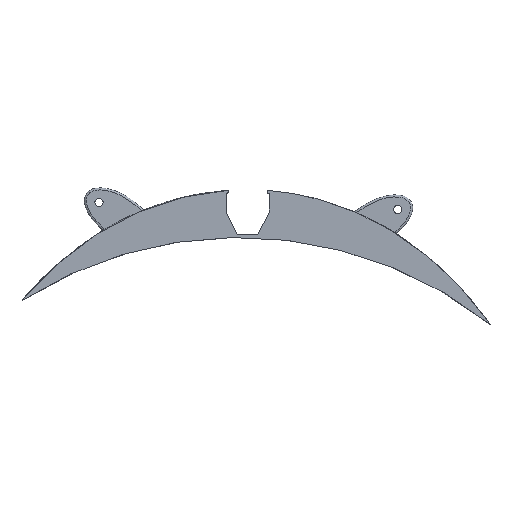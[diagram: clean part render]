
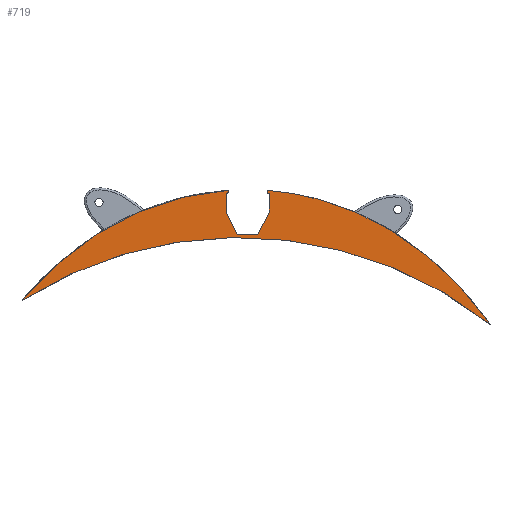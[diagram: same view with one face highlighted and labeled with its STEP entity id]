
A CAD part, top view. The second image highlights one B-rep face of the part: STEP entity #719.
In plain terms, the highlighted planar face has unit normal (0, 0, 1).
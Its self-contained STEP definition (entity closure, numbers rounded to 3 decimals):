
#19=ELLIPSE('',#762,177.219,152.709);
#22=ELLIPSE('',#779,177.219,152.709);
#53=PLANE('',#780);
#62=CIRCLE('',#761,198.492);
#64=CIRCLE('',#768,1.);
#67=CIRCLE('',#777,1.);
#83=LINE('',#1997,#118);
#86=LINE('',#2002,#121);
#88=LINE('',#2006,#123);
#90=LINE('',#2010,#125);
#92=LINE('',#2014,#127);
#97=LINE('',#2187,#132);
#102=LINE('',#2303,#137);
#118=VECTOR('',#834,10.);
#121=VECTOR('',#839,10.);
#123=VECTOR('',#843,10.);
#125=VECTOR('',#847,10.);
#127=VECTOR('',#851,10.);
#132=VECTOR('',#874,10.);
#137=VECTOR('',#907,10.);
#186=FACE_OUTER_BOUND('',#235,.T.);
#235=EDGE_LOOP('',(#653,#654,#655,#656,#657,#658,#659,#660,#661,#662,#663,
#664));
#324=VERTEX_POINT('',#1994);
#325=VERTEX_POINT('',#1996);
#326=VERTEX_POINT('',#2000);
#327=VERTEX_POINT('',#2004);
#328=VERTEX_POINT('',#2008);
#329=VERTEX_POINT('',#2012);
#339=VERTEX_POINT('',#2156);
#340=VERTEX_POINT('',#2158);
#342=VERTEX_POINT('',#2180);
#343=VERTEX_POINT('',#2185);
#346=VERTEX_POINT('',#2284);
#349=VERTEX_POINT('',#2301);
#409=EDGE_CURVE('',#325,#324,#83,.T.);
#412=EDGE_CURVE('',#324,#326,#86,.T.);
#414=EDGE_CURVE('',#326,#327,#88,.T.);
#416=EDGE_CURVE('',#327,#328,#90,.T.);
#418=EDGE_CURVE('',#328,#329,#92,.T.);
#431=EDGE_CURVE('',#340,#339,#62,.T.);
#435=EDGE_CURVE('',#339,#342,#19,.T.);
#438=EDGE_CURVE('',#342,#343,#97,.T.);
#445=EDGE_CURVE('',#329,#346,#64,.T.);
#451=EDGE_CURVE('',#343,#325,#67,.T.);
#453=EDGE_CURVE('',#346,#349,#102,.T.);
#454=EDGE_CURVE('',#349,#340,#22,.T.);
#653=ORIENTED_EDGE('',*,*,#438,.T.);
#654=ORIENTED_EDGE('',*,*,#451,.T.);
#655=ORIENTED_EDGE('',*,*,#409,.T.);
#656=ORIENTED_EDGE('',*,*,#412,.T.);
#657=ORIENTED_EDGE('',*,*,#414,.T.);
#658=ORIENTED_EDGE('',*,*,#416,.T.);
#659=ORIENTED_EDGE('',*,*,#418,.T.);
#660=ORIENTED_EDGE('',*,*,#445,.T.);
#661=ORIENTED_EDGE('',*,*,#453,.T.);
#662=ORIENTED_EDGE('',*,*,#454,.T.);
#663=ORIENTED_EDGE('',*,*,#431,.T.);
#664=ORIENTED_EDGE('',*,*,#435,.T.);
#719=ADVANCED_FACE('',(#186),#53,.T.);
#761=AXIS2_PLACEMENT_3D('',#2159,#863,#864);
#762=AXIS2_PLACEMENT_3D('',#2182,#867,#868);
#768=AXIS2_PLACEMENT_3D('',#2286,#882,#883);
#777=AXIS2_PLACEMENT_3D('',#2299,#902,#903);
#779=AXIS2_PLACEMENT_3D('',#2310,#908,#909);
#780=AXIS2_PLACEMENT_3D('',#2311,#910,#911);
#834=DIRECTION('',(0.,-1.,0.));
#839=DIRECTION('',(-0.447,-0.894,0.));
#843=DIRECTION('',(-1.,0.,0.));
#847=DIRECTION('',(-0.447,0.894,0.));
#851=DIRECTION('',(0.,1.,0.));
#863=DIRECTION('center_axis',(0.,0.,-1.));
#864=DIRECTION('ref_axis',(1.,0.,0.));
#867=DIRECTION('center_axis',(0.,0.,1.));
#868=DIRECTION('ref_axis',(0.,1.,0.));
#874=DIRECTION('',(0.,-1.,0.));
#882=DIRECTION('center_axis',(0.,0.,1.));
#883=DIRECTION('ref_axis',(1.,0.,0.));
#902=DIRECTION('center_axis',(0.,0.,1.));
#903=DIRECTION('ref_axis',(1.,0.,0.));
#907=DIRECTION('',(0.,1.,0.));
#908=DIRECTION('center_axis',(0.,0.,1.));
#909=DIRECTION('ref_axis',(0.,1.,0.));
#910=DIRECTION('center_axis',(0.,0.,1.));
#911=DIRECTION('ref_axis',(1.,0.,0.));
#1994=CARTESIAN_POINT('',(233.818,617.043,-68.5));
#1996=CARTESIAN_POINT('',(233.818,626.043,-68.5));
#1997=CARTESIAN_POINT('',(233.818,606.119,-68.5));
#2000=CARTESIAN_POINT('',(228.318,606.043,-68.5));
#2002=CARTESIAN_POINT('',(226.058,601.522,-68.5));
#2004=CARTESIAN_POINT('',(218.318,606.043,-68.5));
#2006=CARTESIAN_POINT('',(222.864,606.043,-68.5));
#2008=CARTESIAN_POINT('',(212.818,617.043,-68.5));
#2010=CARTESIAN_POINT('',(218.647,605.385,-68.5));
#2012=CARTESIAN_POINT('',(212.818,626.043,-68.5));
#2014=CARTESIAN_POINT('',(212.818,610.619,-68.5));
#2156=CARTESIAN_POINT('',(341.627,562.38,-68.5));
#2158=CARTESIAN_POINT('',(113.194,573.961,-68.5));
#2159=CARTESIAN_POINT('Origin',(219.197,406.144,-68.5));
#2180=CARTESIAN_POINT('',(232.818,627.644,-68.5));
#2182=CARTESIAN_POINT('Origin',(222.992,450.792,-68.5));
#2185=CARTESIAN_POINT('',(232.818,627.043,-68.5));
#2187=CARTESIAN_POINT('',(232.818,611.119,-68.5));
#2284=CARTESIAN_POINT('',(213.818,627.043,-68.5));
#2286=CARTESIAN_POINT('Origin',(212.818,627.043,-68.5));
#2299=CARTESIAN_POINT('Origin',(233.818,627.043,-68.5));
#2301=CARTESIAN_POINT('',(213.818,627.691,-68.5));
#2303=CARTESIAN_POINT('',(213.818,611.619,-68.5));
#2310=CARTESIAN_POINT('Origin',(222.992,450.792,-68.5));
#2311=CARTESIAN_POINT('Origin',(227.41,595.196,-68.5));
